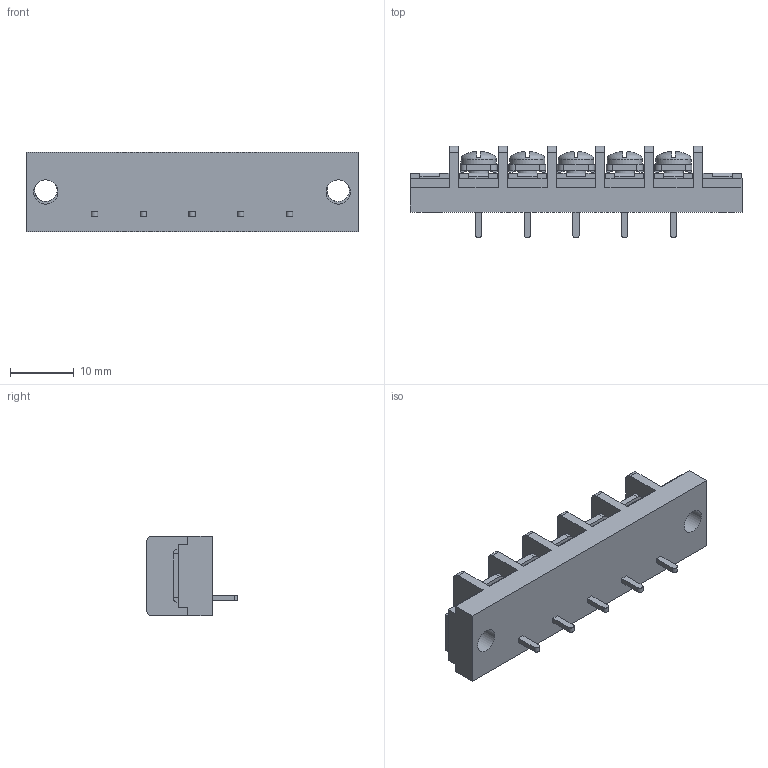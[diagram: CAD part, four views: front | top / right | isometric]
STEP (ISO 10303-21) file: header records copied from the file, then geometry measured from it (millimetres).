
FILE_DESCRIPTION(/* description */ ('Alibre Inc.'),/* implementation_level */ '2;1');
FILE_NAME(/* name */ 'export0',/* time_stamp */ '2015-10-26T17:30:30+09:00',/* author */ (''),/* organization */ (''),/* preprocessor_version */ 'ST-DEVELOPER v14',/* originating_system */ 'Alibre',/* authorisation */ '');
FILE_SCHEMA (('CONFIG_CONTROL_DESIGN'));
Length unit declared in the file: centimetre
Products named in the file (1): ID_1
Bounding box: 51.92 x 14.3 x 12.5 mm (x, y, z)
Volume: 4318.9 mm3; surface area: 3957.4 mm2
Topology: 1 solids, 17 shells, 926 faces, 2501 edges, 1651 vertices
Faces by surface type: plane 712, bspline 104, cylinder 70, cone 20, torus 10, sphere 10
Full cylindrical faces by diameter (mm): 3 x5, 3.5 x2, 3.8 x2, 5.5 x5
Entity records: 27640 total; most frequent: CARTESIAN_POINT 6284, ORIENTED_EDGE 4906, DIRECTION 3257, EDGE_CURVE 2453, VECTOR 1796, LINE 1796, VERTEX_POINT 1627, AXIS2_PLACEMENT_3D 1053
